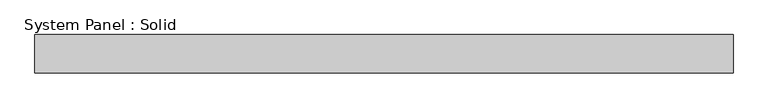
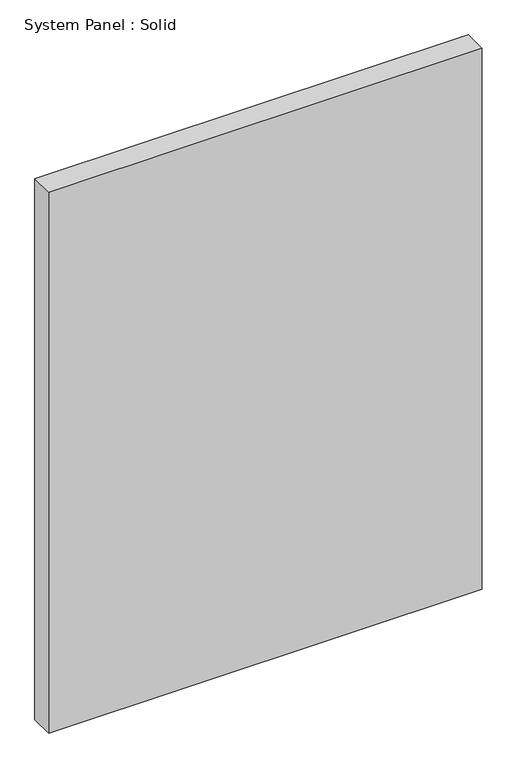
"""IFC4 building model written with IfcOpenShell, lengths in millimetres: plate geometry, System Panel : Solid."""

import ifcopenshell
import ifcopenshell.guid

model = None  # the IFC model being written
_history = None  # IfcOwnerHistory: only IFC2X3 demands one
_inside = {}  # id of a spatial element -> (the spatial element, [elements in it])
_under = {}  # id of a project, library or spatial element -> (it, [spatial elements below it])
_declared = {}  # id of a project -> (the project, [libraries it declares])
_typed = {}  # id of a type object -> (the type object, [elements of that type])
_made_of = {}  # id of a material, layer set ... -> (it, [elements and type objects made of it])


def new_model(schema):
    """Start an empty IFC model of exactly this schema.

    Asked for "IFC4X3", IfcOpenShell would pick the latest addendum, in which some entities
    have other attributes; the version numbers below select the first issue.
    IFC2X3 requires an IfcOwnerHistory on every rooted entity: one is made here for all.
    """
    global model, _history
    if schema == "IFC4X3":
        model = ifcopenshell.file(schema_version=(4, 3, 0, 0))
    else:
        model = ifcopenshell.file(schema=schema)
    _inside.clear()
    _under.clear()
    _declared.clear()
    _typed.clear()
    _made_of.clear()
    _history = None
    if model.schema == "IFC2X3":
        org = make("IfcOrganization", Name="unknown")
        user = make(
            "IfcPersonAndOrganization",
            ThePerson=make("IfcPerson", FamilyName="unknown"),
            TheOrganization=org,
        )
        app = make(
            "IfcApplication",
            ApplicationDeveloper=org,
            Version="unknown",
            ApplicationFullName="unknown",
            ApplicationIdentifier="unknown",
        )
        _history = make(
            "IfcOwnerHistory",
            OwningUser=user,
            OwningApplication=app,
            ChangeAction="ADDED",
            CreationDate=0,
        )
    return model


def make(cls, **values):
    """One entity of the class cls with the attributes given. An attribute that is None is left unset."""
    return model.create_entity(
        cls, **{name: value for name, value in values.items() if value is not None}
    )


def rooted(cls, **values):
    """An entity with a GlobalId (a new one), such as an element, a storey or a relation."""
    return make(cls, GlobalId=ifcopenshell.guid.new(), OwnerHistory=_history, **values)


def si_unit(unit_type, name, prefix=None):
    """IfcSIUnit, for example si_unit("LENGTHUNIT", "METRE", prefix="MILLI")."""
    return make("IfcSIUnit", UnitType=unit_type, Prefix=prefix, Name=name)


def assignment(units):
    """IfcUnitAssignment: the units of a project."""
    return None if units is None else make("IfcUnitAssignment", Units=units)


def point(xyz):
    """IfcCartesianPoint."""
    return None if xyz is None else make("IfcCartesianPoint", Coordinates=xyz)


def direction(xyz):
    """IfcDirection."""
    return None if xyz is None else make("IfcDirection", DirectionRatios=xyz)


def frame(location, z_axis=None, x_axis=None):
    """IfcAxis2Placement3D, a coordinate frame: its origin and axes. An axis left out is left unset."""
    return make(
        "IfcAxis2Placement3D",
        Location=point(location),
        Axis=direction(z_axis),
        RefDirection=direction(x_axis),
    )


def origin():
    """The frame at (0, 0, 0) with its axes left unset."""
    return frame((0.0, 0.0, 0.0))


def origin_with_axes():
    """The frame at (0, 0, 0) with the z axis (0, 0, 1) and the x axis (1, 0, 0) written out."""
    return frame((0.0, 0.0, 0.0), z_axis=(0.0, 0.0, 1.0), x_axis=(1.0, 0.0, 0.0))


def place(relative_to, where):
    """IfcLocalPlacement: puts the frame where relative to a parent placement (None: the world)."""
    return make(
        "IfcLocalPlacement", PlacementRelTo=relative_to, RelativePlacement=where
    )


def context(
    kind, dimensions, precision=None, world=None, true_north=None, identifier=None
):
    """IfcGeometricRepresentationContext, for example the 3D "Model" context."""
    return make(
        "IfcGeometricRepresentationContext",
        ContextIdentifier=identifier,
        ContextType=kind,
        CoordinateSpaceDimension=dimensions,
        Precision=precision,
        WorldCoordinateSystem=world,
        TrueNorth=true_north,
    )


def project(units=None, contexts=None):
    """IfcProject with its units and contexts."""
    return rooted(
        "IfcProject",
        Name="project",
        RepresentationContexts=contexts,
        UnitsInContext=assignment(units),
    )


def spatial(cls, under=None, at=None, **own):
    """A site, building, storey or space (cls), placed at a placement, below another one or the project."""
    s = rooted(cls, ObjectPlacement=at, **own)
    if under is not None:
        _under.setdefault(under.id(), (under, []))[1].append(s)
    return s


def polyline(points):
    """IfcPolyline through the points."""
    return make("IfcPolyline", Points=[point(p) for p in points])


def outline(outer, holes=None, kind="AREA"):
    """IfcArbitraryClosedProfileDef: a profile drawn as a closed curve; with holes, ...WithVoids."""
    if holes is None:
        return make("IfcArbitraryClosedProfileDef", ProfileType=kind, OuterCurve=outer)
    return make(
        "IfcArbitraryProfileDefWithVoids",
        ProfileType=kind,
        OuterCurve=outer,
        InnerCurves=holes,
    )


def extrude(swept, where, along, depth):
    """IfcExtrudedAreaSolid: the profile swept, set in the frame where, extruded along a direction by depth."""
    return make(
        "IfcExtrudedAreaSolid",
        SweptArea=swept,
        Position=where,
        ExtrudedDirection=direction(along),
        Depth=depth,
    )


def shape(context_of_items, identifier, shape_type, items):
    """IfcShapeRepresentation: the items that make up one representation, for example the "Body"."""
    return make(
        "IfcShapeRepresentation",
        ContextOfItems=context_of_items,
        RepresentationIdentifier=identifier,
        RepresentationType=shape_type,
        Items=items,
    )


def source(mapping_origin, context_of_items, identifier, shape_type, items):
    """IfcRepresentationMap: a shape defined once, which mapped items show again and again."""
    return make(
        "IfcRepresentationMap",
        MappingOrigin=mapping_origin,
        MappedRepresentation=shape(context_of_items, identifier, shape_type, items),
    )


def transform(
    local_origin,
    x_axis=None,
    y_axis=None,
    z_axis=None,
    scale=None,
    scale2=None,
    scale3=None,
    uniform=True,
):
    """IfcCartesianTransformationOperator3D, or its non-uniform kind. x_axis, y_axis, z_axis: its Axis1, 2, 3."""
    if uniform:
        return make(
            "IfcCartesianTransformationOperator3D",
            Axis1=direction(x_axis),
            Axis2=direction(y_axis),
            LocalOrigin=point(local_origin),
            Scale=scale,
            Axis3=direction(z_axis),
        )
    return make(
        "IfcCartesianTransformationOperator3DnonUniform",
        Axis1=direction(x_axis),
        Axis2=direction(y_axis),
        LocalOrigin=point(local_origin),
        Scale=scale,
        Axis3=direction(z_axis),
        Scale2=scale2,
        Scale3=scale3,
    )


def mapped(mapping_source, mapping_target):
    """IfcMappedItem: shows the shape of a source again, moved by a transform."""
    return make(
        "IfcMappedItem", MappingSource=mapping_source, MappingTarget=mapping_target
    )


def made_of(thing, what):
    """Note that an element or type object is made of a material, layer set ...; save() writes the relation."""
    if what is not None:
        _made_of.setdefault(what.id(), (what, []))[1].append(thing)
    return thing


def element(
    cls,
    number,
    at=None,
    inside=None,
    cuts=None,
    type_object=None,
    material=None,
    context=None,
    identifier="Body",
    shape_type=None,
    held_by="IfcProductDefinitionShape",
    body=None,
    shapes=None,
    **own,
):
    """One element of the class cls, such as IfcWall. Its Tag is "e" and its number.

    at: its placement. inside: the storey or other place that contains it. cuts: it is an
    opening in that element (IfcRelVoidsElement). A single representation is given by context,
    identifier, shape_type and body (its items); several are given by shapes. held_by: the class
    of the entity that holds the representations. save() writes the other relations.
    """
    e = rooted(cls, Tag="e%d" % number, ObjectPlacement=at, **own)
    if body is not None:
        shapes = [shape(context, identifier, shape_type, body)]
    if shapes is not None:
        e.Representation = make(held_by, Representations=shapes)
    if inside is not None:
        _inside.setdefault(inside.id(), (inside, []))[1].append(e)
    if cuts is not None:
        rooted(
            "IfcRelVoidsElement", RelatingBuildingElement=cuts, RelatedOpeningElement=e
        )
    if type_object is not None:
        _typed.setdefault(type_object.id(), (type_object, []))[1].append(e)
    return made_of(e, material)


def aggregate(whole, parts):
    """IfcRelAggregates: a whole, such as a stair, and the parts it consists of."""
    return rooted("IfcRelAggregates", RelatingObject=whole, RelatedObjects=parts)


def save(model, path):
    """Write the relations noted so far, then the file.

    IfcRelAggregates (storeys below a building ...), IfcRelContainedInSpatialStructure (elements
    in a storey), IfcRelDefinesByType, IfcRelAssociatesMaterial and IfcRelDeclares: one each for
    every whole, place, type object, material and project.
    """
    for whole, parts in _under.values():
        aggregate(whole, parts)
    for where, things in _inside.values():
        rooted(
            "IfcRelContainedInSpatialStructure",
            RelatedElements=things,
            RelatingStructure=where,
        )
    for kind, things in _typed.values():
        rooted("IfcRelDefinesByType", RelatedObjects=things, RelatingType=kind)
    for what, things in _made_of.values():
        rooted("IfcRelAssociatesMaterial", RelatedObjects=things, RelatingMaterial=what)
    for by, libraries in _declared.values():
        rooted("IfcRelDeclares", RelatingContext=by, RelatedDefinitions=libraries)
    model.write(path)


def system_panel_solid_3d16d364(model_context):
    return source(origin(), model_context, "Body", "SweptSolid", [
        extrude(outline(polyline([(549.4999998, -10.5), (-549.4999998, -10.5), (-549.4999998, 49.5), (549.4999998, 49.5), (549.4999998, -10.5)])), origin_with_axes(), (0.0, 0.0, 1.0), 1449.0),
    ])


if __name__ == "__main__":
    model = new_model("IFC4")
    model_context = context("Model", 3, world=origin())
    ifc_project = project(units=[si_unit("LENGTHUNIT", "METRE", prefix="MILLI")], contexts=[model_context])
    site = spatial("IfcSite", under=ifc_project)
    building = spatial("IfcBuilding", under=site)
    placement = place(None, origin())
    system_panel_solid_shape = system_panel_solid_3d16d364(model_context)
    element("IfcPlate", 1, ObjectType="System Panel : Solid", at=placement, inside=building, context=model_context, shape_type="MappedRepresentation", body=[
        mapped(system_panel_solid_shape, transform((0.0, 0.0, 0.0), x_axis=(1.0, 0.0, 0.0), y_axis=(0.0, 1.0, 0.0), z_axis=(0.0, 0.0, 1.0))),
    ])
    save(model, "model.ifc")
